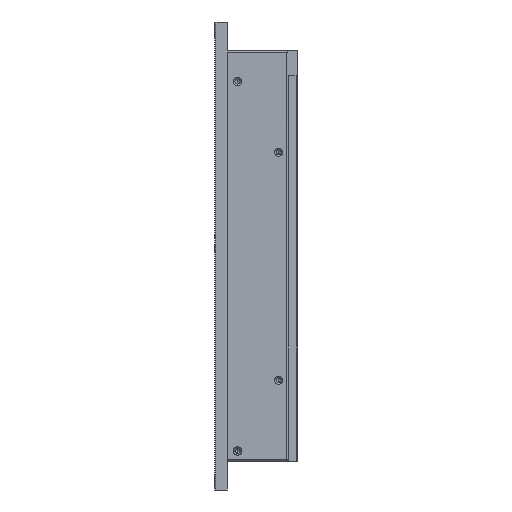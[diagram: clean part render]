
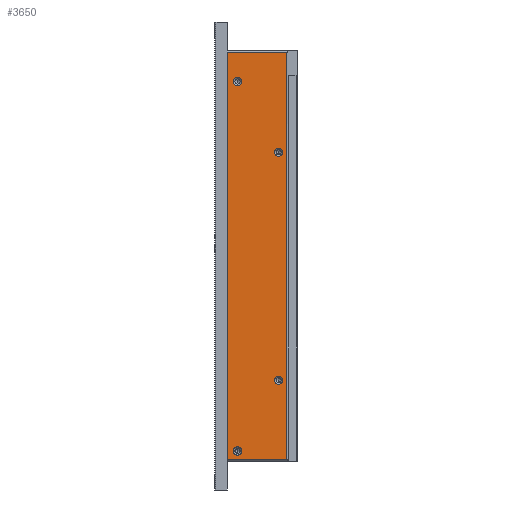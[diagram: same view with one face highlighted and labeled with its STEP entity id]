
A CAD part, front view. The second image highlights one B-rep face of the part: STEP entity #3650.
In plain terms, the highlighted planar face has unit normal (0, -1, 0).
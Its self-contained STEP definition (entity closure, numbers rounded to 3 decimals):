
#224 = CARTESIAN_POINT ( 'NONE',  ( -9., -25., -60.5 ) ) ;
#339 = DIRECTION ( 'NONE',  ( 0., -1., 0. ) ) ;
#485 = DIRECTION ( 'NONE',  ( 0., 0., -1. ) ) ;
#704 = AXIS2_PLACEMENT_3D ( 'NONE', #224, #339, #485 ) ;
#705 = CIRCLE ( 'NONE', #704, 2. ) ;
#724 = CARTESIAN_POINT ( 'NONE',  ( -9., -25., 52.5 ) ) ;
#742 = DIRECTION ( 'NONE',  ( 0., 0., -1. ) ) ;
#743 = DIRECTION ( 'NONE',  ( 0., -1., 0. ) ) ;
#744 = CARTESIAN_POINT ( 'NONE',  ( -29., -25., -95. ) ) ;
#745 = AXIS2_PLACEMENT_3D ( 'NONE', #744, #743, #742 ) ;
#756 = AXIS2_PLACEMENT_3D ( 'NONE', #924, #923, #922 ) ;
#757 = CIRCLE ( 'NONE', #756, 2. ) ;
#780 = CIRCLE ( 'NONE', #745, 2. ) ;
#822 = AXIS2_PLACEMENT_3D ( 'NONE', #898, #897, #896 ) ;
#823 = CIRCLE ( 'NONE', #822, 2. ) ;
#871 = CARTESIAN_POINT ( 'NONE',  ( -29., -25., 83. ) ) ;
#896 = DIRECTION ( 'NONE',  ( 0., 0., -1. ) ) ;
#897 = DIRECTION ( 'NONE',  ( 0., -1., 0. ) ) ;
#898 = CARTESIAN_POINT ( 'NONE',  ( -29., -25., 85. ) ) ;
#915 = CARTESIAN_POINT ( 'NONE',  ( -9., -25., -58.5 ) ) ;
#921 = CARTESIAN_POINT ( 'NONE',  ( -9., -25., 48.5 ) ) ;
#922 = DIRECTION ( 'NONE',  ( 0., 0., -1. ) ) ;
#923 = DIRECTION ( 'NONE',  ( 0., -1., 0. ) ) ;
#924 = CARTESIAN_POINT ( 'NONE',  ( -9., -25., 50.5 ) ) ;
#926 = CARTESIAN_POINT ( 'NONE',  ( -9., -25., -62.5 ) ) ;
#975 = CARTESIAN_POINT ( 'NONE',  ( -29., -25., 87. ) ) ;
#1133 = CARTESIAN_POINT ( 'NONE',  ( -29., -25., -97. ) ) ;
#1214 = CARTESIAN_POINT ( 'NONE',  ( -29., -25., -93. ) ) ;
#3591 = VERTEX_POINT ( 'NONE', #6950 ) ;
#3611 = EDGE_LOOP ( 'NONE', ( #3665, #3686 ) ) ;
#3614 = VERTEX_POINT ( 'NONE', #7075 ) ;
#3619 = EDGE_CURVE ( 'NONE', #3591, #3614, #7109, .T. ) ;
#3624 = EDGE_CURVE ( 'NONE', #4260, #4380, #7206, .T. ) ;
#3625 = ORIENTED_EDGE ( 'NONE', *, *, #4259, .F. ) ;
#3633 = ORIENTED_EDGE ( 'NONE', *, *, #3624, .F. ) ;
#3642 = EDGE_LOOP ( 'NONE', ( #3643, #3720, #3743, #3704 ) ) ;
#3643 = ORIENTED_EDGE ( 'NONE', *, *, #3619, .F. ) ;
#3646 = ORIENTED_EDGE ( 'NONE', *, *, #3677, .F. ) ;
#3650 = ADVANCED_FACE ( 'NONE', ( #7292, #7291, #7290, #7154, #7153 ), #7152, .F. ) ;
#3652 = EDGE_CURVE ( 'NONE', #4464, #4519, #7225, .T. ) ;
#3653 = ORIENTED_EDGE ( 'NONE', *, *, #4305, .F. ) ;
#3657 = EDGE_LOOP ( 'NONE', ( #3646, #3678 ) ) ;
#3665 = ORIENTED_EDGE ( 'NONE', *, *, #3685, .F. ) ;
#3677 = EDGE_CURVE ( 'NONE', #4301, #4219, #7150, .T. ) ;
#3678 = ORIENTED_EDGE ( 'NONE', *, *, #4300, .F. ) ;
#3679 = EDGE_LOOP ( 'NONE', ( #3633, #3625 ) ) ;
#3683 = EDGE_LOOP ( 'NONE', ( #3684, #3653 ) ) ;
#3684 = ORIENTED_EDGE ( 'NONE', *, *, #3652, .F. ) ;
#3685 = EDGE_CURVE ( 'NONE', #4363, #4339, #7141, .T. ) ;
#3686 = ORIENTED_EDGE ( 'NONE', *, *, #4254, .F. ) ;
#3704 = ORIENTED_EDGE ( 'NONE', *, *, #3729, .F. ) ;
#3705 = EDGE_CURVE ( 'NONE', #3591, #3712, #7173, .T. ) ;
#3710 = VERTEX_POINT ( 'NONE', #7169 ) ;
#3712 = VERTEX_POINT ( 'NONE', #7168 ) ;
#3720 = ORIENTED_EDGE ( 'NONE', *, *, #3705, .T. ) ;
#3729 = EDGE_CURVE ( 'NONE', #3614, #3710, #7294, .T. ) ;
#3734 = EDGE_CURVE ( 'NONE', #3712, #3710, #7331, .T. ) ;
#3743 = ORIENTED_EDGE ( 'NONE', *, *, #3734, .T. ) ;
#4219 = VERTEX_POINT ( 'NONE', #724 ) ;
#4254 = EDGE_CURVE ( 'NONE', #4339, #4363, #705, .T. ) ;
#4259 = EDGE_CURVE ( 'NONE', #4380, #4260, #823, .T. ) ;
#4260 = VERTEX_POINT ( 'NONE', #871 ) ;
#4300 = EDGE_CURVE ( 'NONE', #4219, #4301, #757, .T. ) ;
#4301 = VERTEX_POINT ( 'NONE', #921 ) ;
#4305 = EDGE_CURVE ( 'NONE', #4519, #4464, #780, .T. ) ;
#4339 = VERTEX_POINT ( 'NONE', #915 ) ;
#4363 = VERTEX_POINT ( 'NONE', #926 ) ;
#4380 = VERTEX_POINT ( 'NONE', #975 ) ;
#4464 = VERTEX_POINT ( 'NONE', #1133 ) ;
#4519 = VERTEX_POINT ( 'NONE', #1214 ) ;
#6950 = CARTESIAN_POINT ( 'NONE',  ( -34., -25., -99.2 ) ) ;
#7075 = CARTESIAN_POINT ( 'NONE',  ( -34., -25., 99.2 ) ) ;
#7106 = DIRECTION ( 'NONE',  ( 0., 0., 1. ) ) ;
#7107 = VECTOR ( 'NONE', #7106, 1000. ) ;
#7108 = CARTESIAN_POINT ( 'NONE',  ( -34., -25., -114. ) ) ;
#7109 = LINE ( 'NONE', #7108, #7107 ) ;
#7137 = DIRECTION ( 'NONE',  ( 0., 0., -1. ) ) ;
#7138 = DIRECTION ( 'NONE',  ( 0., -1., 0. ) ) ;
#7139 = CARTESIAN_POINT ( 'NONE',  ( -9., -25., -60.5 ) ) ;
#7140 = AXIS2_PLACEMENT_3D ( 'NONE', #7139, #7138, #7137 ) ;
#7141 = CIRCLE ( 'NONE', #7140, 2. ) ;
#7146 = DIRECTION ( 'NONE',  ( 0., 0., -1. ) ) ;
#7147 = DIRECTION ( 'NONE',  ( 0., -1., 0. ) ) ;
#7148 = CARTESIAN_POINT ( 'NONE',  ( -9., -25., 50.5 ) ) ;
#7149 = AXIS2_PLACEMENT_3D ( 'NONE', #7148, #7147, #7146 ) ;
#7150 = CIRCLE ( 'NONE', #7149, 2. ) ;
#7151 = AXIS2_PLACEMENT_3D ( 'NONE', #7245, #7244, #7243 ) ;
#7152 = PLANE ( 'NONE',  #7151 ) ;
#7153 = FACE_OUTER_BOUND ( 'NONE', #3642, .T. ) ;
#7154 = FACE_BOUND ( 'NONE', #3683, .T. ) ;
#7161 = DIRECTION ( 'NONE',  ( 0., 0., -1. ) ) ;
#7168 = CARTESIAN_POINT ( 'NONE',  ( -5., -25., -99.2 ) ) ;
#7169 = CARTESIAN_POINT ( 'NONE',  ( -5., -25., 99.2 ) ) ;
#7170 = DIRECTION ( 'NONE',  ( 1., 0., 0. ) ) ;
#7171 = VECTOR ( 'NONE', #7170, 1000. ) ;
#7172 = CARTESIAN_POINT ( 'NONE',  ( -34., -25., -99.2 ) ) ;
#7173 = LINE ( 'NONE', #7172, #7171 ) ;
#7176 = CARTESIAN_POINT ( 'NONE',  ( -29., -25., 85. ) ) ;
#7177 = DIRECTION ( 'NONE',  ( 0., -1., 0. ) ) ;
#7192 = AXIS2_PLACEMENT_3D ( 'NONE', #7176, #7177, #7215 ) ;
#7206 = CIRCLE ( 'NONE', #7192, 2. ) ;
#7215 = DIRECTION ( 'NONE',  ( 0., 0., -1. ) ) ;
#7222 = DIRECTION ( 'NONE',  ( 0., -1., 0. ) ) ;
#7223 = CARTESIAN_POINT ( 'NONE',  ( -29., -25., -95. ) ) ;
#7224 = AXIS2_PLACEMENT_3D ( 'NONE', #7223, #7222, #7161 ) ;
#7225 = CIRCLE ( 'NONE', #7224, 2. ) ;
#7243 = DIRECTION ( 'NONE',  ( -1., 0., 0. ) ) ;
#7244 = DIRECTION ( 'NONE',  ( 0., 1., 0. ) ) ;
#7245 = CARTESIAN_POINT ( 'NONE',  ( -34., -25., -114. ) ) ;
#7290 = FACE_BOUND ( 'NONE', #3611, .T. ) ;
#7291 = FACE_BOUND ( 'NONE', #3679, .T. ) ;
#7292 = FACE_BOUND ( 'NONE', #3657, .T. ) ;
#7294 = LINE ( 'NONE', #7306, #7308 ) ;
#7306 = CARTESIAN_POINT ( 'NONE',  ( -34., -25., 99.2 ) ) ;
#7307 = DIRECTION ( 'NONE',  ( 1., 0., 0. ) ) ;
#7308 = VECTOR ( 'NONE', #7307, 1000. ) ;
#7328 = DIRECTION ( 'NONE',  ( 0., 0., 1. ) ) ;
#7329 = VECTOR ( 'NONE', #7328, 1000. ) ;
#7330 = CARTESIAN_POINT ( 'NONE',  ( -5., -25., -114. ) ) ;
#7331 = LINE ( 'NONE', #7330, #7329 ) ;
